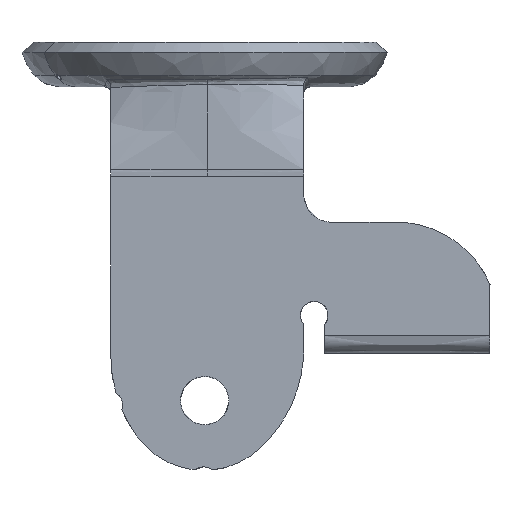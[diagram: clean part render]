
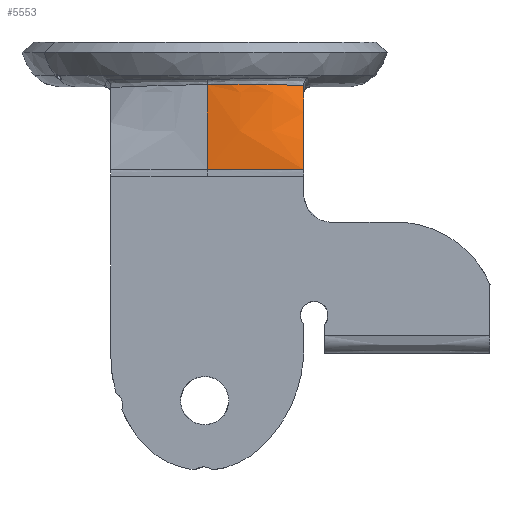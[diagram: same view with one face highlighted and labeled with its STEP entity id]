
A CAD part, left-side view. The second image highlights one B-rep face of the part: STEP entity #5553.
In plain terms, the highlighted free-form (B-spline) face has degree [3, 3] with [10, 4] control points.
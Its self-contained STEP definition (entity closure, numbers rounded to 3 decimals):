
#1764 = ORIENTED_EDGE ( 'NONE', *, *, #11353, .T. ) ;
#1765 = ORIENTED_EDGE ( 'NONE', *, *, #11354, .T. ) ;
#1766 = ORIENTED_EDGE ( 'NONE', *, *, #11356, .F. ) ;
#1767 = ORIENTED_EDGE ( 'NONE', *, *, #16621, .F. ) ;
#3941 = VERTEX_POINT ( 'NONE', #4513 ) ;
#3974 = VERTEX_POINT ( 'NONE', #4546 ) ;
#3975 = VERTEX_POINT ( 'NONE', #4547 ) ;
#4513 = CARTESIAN_POINT ( 'NONE',  ( -47.5, -0.764, -48. ) ) ;
#4546 = CARTESIAN_POINT ( 'NONE',  ( -47.5, -0.764, -23.363 ) ) ;
#4547 = CARTESIAN_POINT ( 'NONE',  ( -38.785, -28.764, -23.606 ) ) ;
#5266 = CARTESIAN_POINT ( 'NONE',  ( -47.5, -10.77, -22.548 ) ) ;
#5309 = CARTESIAN_POINT ( 'NONE',  ( -44.554, -20.104, -22.599 ) ) ;
#5310 = CARTESIAN_POINT ( 'NONE',  ( -38.663, -28.764, -23.37 ) ) ;
#5311 = CARTESIAN_POINT ( 'NONE',  ( -47.5, -0.764, -23.215 ) ) ;
#5312 = CARTESIAN_POINT ( 'NONE',  ( -39.117, -28.764, -24.242 ) ) ;
#5313 = CARTESIAN_POINT ( 'NONE',  ( -44.706, -20.038, -23.541 ) ) ;
#5314 = CARTESIAN_POINT ( 'NONE',  ( -47.5, -10.705, -23.509 ) ) ;
#5315 = CARTESIAN_POINT ( 'NONE',  ( -47.5, -0.764, -24.144 ) ) ;
#5316 = CARTESIAN_POINT ( 'NONE',  ( -39.565, -28.764, -25.118 ) ) ;
#5317 = CARTESIAN_POINT ( 'NONE',  ( -44.855, -19.975, -24.484 ) ) ;
#5318 = CARTESIAN_POINT ( 'NONE',  ( -47.5, -10.642, -24.469 ) ) ;
#5319 = CARTESIAN_POINT ( 'NONE',  ( -47.5, -0.764, -25.072 ) ) ;
#5320 = CARTESIAN_POINT ( 'NONE',  ( -40., -28.764, -26. ) ) ;
#5321 = CARTESIAN_POINT ( 'NONE',  ( -45., -19.919, -25.428 ) ) ;
#5322 = CARTESIAN_POINT ( 'NONE',  ( -47.5, -10.586, -25.428 ) ) ;
#5323 = CARTESIAN_POINT ( 'NONE',  ( -47.5, -0.764, -26. ) ) ;
#5324 = CARTESIAN_POINT ( 'NONE',  ( -41.711, -28.764, -29.471 ) ) ;
#5325 = CARTESIAN_POINT ( 'NONE',  ( -45.57, -19.697, -29.142 ) ) ;
#5326 = CARTESIAN_POINT ( 'NONE',  ( -47.5, -10.363, -29.202 ) ) ;
#5327 = CARTESIAN_POINT ( 'NONE',  ( -47.5, -0.764, -29.652 ) ) ;
#5328 = CARTESIAN_POINT ( 'NONE',  ( -43.199, -28.764, -33.053 ) ) ;
#5329 = CARTESIAN_POINT ( 'NONE',  ( -46.066, -19.578, -32.877 ) ) ;
#5330 = CARTESIAN_POINT ( 'NONE',  ( -47.5, -10.244, -32.961 ) ) ;
#5331 = CARTESIAN_POINT ( 'NONE',  ( -47.5, -0.764, -33.306 ) ) ;
#5332 = CARTESIAN_POINT ( 'NONE',  ( -44.454, -28.764, -36.73 ) ) ;
#5333 = CARTESIAN_POINT ( 'NONE',  ( -46.485, -19.511, -36.641 ) ) ;
#5334 = CARTESIAN_POINT ( 'NONE',  ( -47.5, -10.178, -36.722 ) ) ;
#5335 = CARTESIAN_POINT ( 'NONE',  ( -47.5, -0.764, -36.973 ) ) ;
#5336 = CARTESIAN_POINT ( 'NONE',  ( -45.709, -28.764, -40.406 ) ) ;
#5337 = CARTESIAN_POINT ( 'NONE',  ( -46.903, -19.445, -40.405 ) ) ;
#5338 = CARTESIAN_POINT ( 'NONE',  ( -47.5, -10.112, -40.483 ) ) ;
#5339 = CARTESIAN_POINT ( 'NONE',  ( -47.5, -0.764, -40.639 ) ) ;
#5340 = CARTESIAN_POINT ( 'NONE',  ( -46.729, -28.764, -44.177 ) ) ;
#5341 = CARTESIAN_POINT ( 'NONE',  ( -47.243, -19.431, -44.198 ) ) ;
#5342 = CARTESIAN_POINT ( 'NONE',  ( -47.5, -10.098, -44.246 ) ) ;
#5343 = CARTESIAN_POINT ( 'NONE',  ( -47.5, -0.764, -44.319 ) ) ;
#5344 = CARTESIAN_POINT ( 'NONE',  ( -47.5, -28.764, -48. ) ) ;
#5345 = CARTESIAN_POINT ( 'NONE',  ( -47.5, -19.431, -48. ) ) ;
#5346 = CARTESIAN_POINT ( 'NONE',  ( -47.5, -10.098, -48. ) ) ;
#5347 = CARTESIAN_POINT ( 'NONE',  ( -47.5, -0.764, -48. ) ) ;
#5553 = ADVANCED_FACE ( 'NONE', ( #16023 ), #9317, .F. ) ;
#6014 = B_SPLINE_CURVE_WITH_KNOTS ( 'NONE', 3,
 ( #10799, #10821, #10822, #10823, #10824, #10825, #10826, #10827, #10828, #10829 ),
 .UNSPECIFIED., .F., .F.,
 ( 4, 3, 3, 4 ),
 ( 0., 0.448, 0.896, 1. ),
 .UNSPECIFIED. ) ;
#6015 = B_SPLINE_CURVE_WITH_KNOTS ( 'NONE', 3,
 ( #10764, #10830, #10831, #10832, #10833, #10834, #10835, #10836 ),
 .UNSPECIFIED., .F., .F.,
 ( 4, 2, 2, 4 ),
 ( 0., 0.25, 0.5, 1. ),
 .UNSPECIFIED. ) ;
#6017 = B_SPLINE_CURVE_WITH_KNOTS ( 'NONE', 3,
 ( #10837, #10842, #10843, #10844, #10845, #10846, #10847, #10848, #10849, #10850 ),
 .UNSPECIFIED., .F., .F.,
 ( 4, 3, 3, 4 ),
 ( 0., 0.446, 0.893, 1. ),
 .UNSPECIFIED. ) ;
#9317 = B_SPLINE_SURFACE_WITH_KNOTS ( 'NONE', 3, 3, ( 
 ( #5310, #5309, #5266, #5311 ),
 ( #5312, #5313, #5314, #5315 ),
 ( #5316, #5317, #5318, #5319 ),
 ( #5320, #5321, #5322, #5323 ),
 ( #5324, #5325, #5326, #5327 ),
 ( #5328, #5329, #5330, #5331 ),
 ( #5332, #5333, #5334, #5335 ),
 ( #5336, #5337, #5338, #5339 ),
 ( #5340, #5341, #5342, #5343 ),
 ( #5344, #5345, #5346, #5347 ) ),
 .UNSPECIFIED., .F., .F., .F.,
 ( 4, 3, 3, 4 ),
 ( 4, 4 ),
 ( 0.249, 0.333, 0.667, 1. ),
 ( 0., 1. ),
 .UNSPECIFIED. ) ;
#10764 = CARTESIAN_POINT ( 'NONE',  ( -38.785, -28.764, -23.606 ) ) ;
#10799 = CARTESIAN_POINT ( 'NONE',  ( -47.5, -28.764, -48. ) ) ;
#10821 = CARTESIAN_POINT ( 'NONE',  ( -46.729, -28.764, -44.177 ) ) ;
#10822 = CARTESIAN_POINT ( 'NONE',  ( -45.709, -28.764, -40.406 ) ) ;
#10823 = CARTESIAN_POINT ( 'NONE',  ( -44.454, -28.764, -36.73 ) ) ;
#10824 = CARTESIAN_POINT ( 'NONE',  ( -43.199, -28.764, -33.053 ) ) ;
#10825 = CARTESIAN_POINT ( 'NONE',  ( -41.711, -28.764, -29.471 ) ) ;
#10826 = CARTESIAN_POINT ( 'NONE',  ( -40., -28.764, -26. ) ) ;
#10827 = CARTESIAN_POINT ( 'NONE',  ( -39.604, -28.764, -25.197 ) ) ;
#10828 = CARTESIAN_POINT ( 'NONE',  ( -39.198, -28.764, -24.4 ) ) ;
#10829 = CARTESIAN_POINT ( 'NONE',  ( -38.785, -28.764, -23.606 ) ) ;
#10830 = CARTESIAN_POINT ( 'NONE',  ( -40.253, -26.651, -23.525 ) ) ;
#10831 = CARTESIAN_POINT ( 'NONE',  ( -41.526, -24.461, -23.452 ) ) ;
#10832 = CARTESIAN_POINT ( 'NONE',  ( -43.706, -19.966, -23.342 ) ) ;
#10833 = CARTESIAN_POINT ( 'NONE',  ( -44.611, -17.66, -23.305 ) ) ;
#10834 = CARTESIAN_POINT ( 'NONE',  ( -46.78, -10.609, -23.252 ) ) ;
#10835 = CARTESIAN_POINT ( 'NONE',  ( -47.5, -5.733, -23.299 ) ) ;
#10836 = CARTESIAN_POINT ( 'NONE',  ( -47.5, -0.764, -23.363 ) ) ;
#10837 = CARTESIAN_POINT ( 'NONE',  ( -47.5, -0.764, -48. ) ) ;
#10842 = CARTESIAN_POINT ( 'NONE',  ( -47.5, -0.764, -44.319 ) ) ;
#10843 = CARTESIAN_POINT ( 'NONE',  ( -47.5, -0.764, -40.639 ) ) ;
#10844 = CARTESIAN_POINT ( 'NONE',  ( -47.5, -0.764, -36.973 ) ) ;
#10845 = CARTESIAN_POINT ( 'NONE',  ( -47.5, -0.764, -33.306 ) ) ;
#10846 = CARTESIAN_POINT ( 'NONE',  ( -47.5, -0.764, -29.652 ) ) ;
#10847 = CARTESIAN_POINT ( 'NONE',  ( -47.5, -0.764, -26. ) ) ;
#10848 = CARTESIAN_POINT ( 'NONE',  ( -47.5, -0.764, -25.121 ) ) ;
#10849 = CARTESIAN_POINT ( 'NONE',  ( -47.5, -0.764, -24.242 ) ) ;
#10850 = CARTESIAN_POINT ( 'NONE',  ( -47.5, -0.764, -23.363 ) ) ;
#10981 = B_SPLINE_CURVE_WITH_KNOTS ( 'NONE', 3,
 ( #16091, #16096, #16097, #16098 ),
 .UNSPECIFIED., .F., .F.,
 ( 4, 4 ),
 ( 0., 1. ),
 .UNSPECIFIED. ) ;
#11353 = EDGE_CURVE ( 'NONE', #15446, #3975, #6014, .T. ) ;
#11354 = EDGE_CURVE ( 'NONE', #3975, #3974, #6015, .T. ) ;
#11356 = EDGE_CURVE ( 'NONE', #3941, #3974, #6017, .T. ) ;
#14490 = CARTESIAN_POINT ( 'NONE',  ( -47.5, -28.764, -48. ) ) ;
#15446 = VERTEX_POINT ( 'NONE', #14490 ) ;
#15963 = EDGE_LOOP ( 'NONE', ( #1764, #1765, #1766, #1767 ) ) ;
#16023 = FACE_OUTER_BOUND ( 'NONE', #15963, .T. ) ;
#16091 = CARTESIAN_POINT ( 'NONE',  ( -47.5, -28.764, -48. ) ) ;
#16096 = CARTESIAN_POINT ( 'NONE',  ( -47.5, -19.431, -48. ) ) ;
#16097 = CARTESIAN_POINT ( 'NONE',  ( -47.5, -10.098, -48. ) ) ;
#16098 = CARTESIAN_POINT ( 'NONE',  ( -47.5, -0.764, -48. ) ) ;
#16621 = EDGE_CURVE ( 'NONE', #15446, #3941, #10981, .T. ) ;
